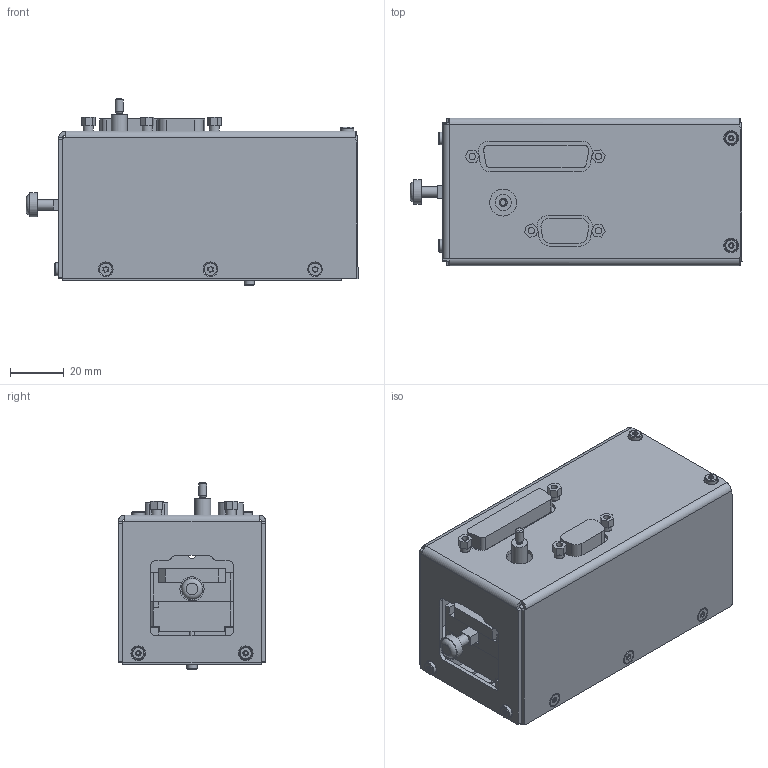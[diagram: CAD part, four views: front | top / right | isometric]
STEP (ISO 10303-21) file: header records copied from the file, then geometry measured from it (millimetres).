
FILE_DESCRIPTION (( 'STEP AP203' ), '1' );
FILE_NAME ('V-275.431_KUNDENMODELL V-275.431PRT.step', '2019-10-01T12:28:23', ( 'Physik Instrumente GmbH & Co.KG' ), ( 'Physik Instrumente GmbH & Co.KG' ), 'SwSTEP 2.0', 'SolidWorks 2016', '' );
FILE_SCHEMA (( 'CONFIG_CONTROL_DESIGN' ));
Products named in the file (1): V-275.431_KUNDENMODELL V-275.431PRT
Bounding box: 123.7 x 55 x 69.6 mm (x, y, z)
Volume: 127380.8 mm3; surface area: 85943.7 mm2
Topology: 34 solids, 34 shells, 2599 faces, 6044 edges, 3528 vertices
Faces by surface type: plane 1559, cone 659, cylinder 303, torus 42, bspline 30, sphere 6
Full cylindrical faces by diameter (mm): 1.6 x2, 2 x3, 2.05 x2, 2.053 x4, 2.16 x2, 2.2 x1, 2.4 x4, 2.5 x16, 2.85 x4, 3 x7, 3.048 x2, 3.1 x10, 3.3 x4, 3.4 x4, 3.7 x4, 3.8 x1, 3.95 x4, 4 x7, 4.5 x4, 4.7 x6, 4.75 x4, 6 x1, 7 x4, 7.9 x1, 8 x5, 9 x1, 10 x1
Entity records: 73599 total; most frequent: CARTESIAN_POINT 17999, ORIENTED_EDGE 11572, DIRECTION 11182, EDGE_CURVE 5786, AXIS2_PLACEMENT_3D 4530, VERTEX_POINT 3483, EDGE_LOOP 2909, FACE_OUTER_BOUND 2729
